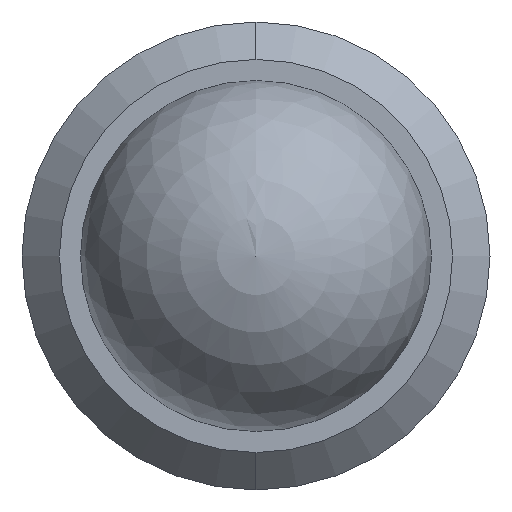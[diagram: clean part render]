
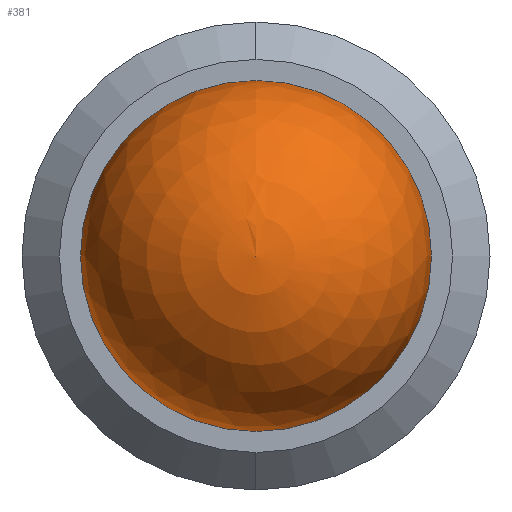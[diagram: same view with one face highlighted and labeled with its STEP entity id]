
A CAD part, left-side view. The second image highlights one B-rep face of the part: STEP entity #381.
In plain terms, the highlighted spherical face has radius 2.381 mm.
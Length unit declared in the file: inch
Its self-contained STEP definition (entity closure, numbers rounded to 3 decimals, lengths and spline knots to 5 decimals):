
#3 = EDGE_CURVE ( 'NONE', #295, #557, #161, .T. ) ;
#10 = CARTESIAN_POINT ( 'NONE',  ( 0., 0., 0. ) ) ;
#17 = EDGE_CURVE ( 'NONE', #295, #557, #165, .T. ) ;
#45 = CARTESIAN_POINT ( 'NONE',  ( 0., -0.09375, 0. ) ) ;
#119 = DIRECTION ( 'NONE',  ( -1., 0., 0. ) ) ;
#161 = CIRCLE ( 'NONE', #365, 0.09375 ) ;
#165 = CIRCLE ( 'NONE', #308, 0.09375 ) ;
#193 = CARTESIAN_POINT ( 'NONE',  ( 0., 0.09375, 0. ) ) ;
#205 = ORIENTED_EDGE ( 'NONE', *, *, #3, .T. ) ;
#284 = FACE_OUTER_BOUND ( 'NONE', #518, .T. ) ;
#292 = SPHERICAL_SURFACE ( 'NONE', #600, 0.09375 ) ;
#295 = VERTEX_POINT ( 'NONE', #193 ) ;
#308 = AXIS2_PLACEMENT_3D ( 'NONE', #10, #453, #475 ) ;
#319 = ORIENTED_EDGE ( 'NONE', *, *, #17, .F. ) ;
#365 = AXIS2_PLACEMENT_3D ( 'NONE', #597, #406, #455 ) ;
#381 = ADVANCED_FACE ( 'NONE', ( #284 ), #292, .T. ) ;
#406 = DIRECTION ( 'NONE',  ( -1., 0., 0. ) ) ;
#453 = DIRECTION ( 'NONE',  ( 1., 0., 0. ) ) ;
#455 = DIRECTION ( 'NONE',  ( 0., 0., 1. ) ) ;
#475 = DIRECTION ( 'NONE',  ( 0., 0., -1. ) ) ;
#511 = CARTESIAN_POINT ( 'NONE',  ( 0., 0., 0. ) ) ;
#518 = EDGE_LOOP ( 'NONE', ( #319, #205 ) ) ;
#557 = VERTEX_POINT ( 'NONE', #45 ) ;
#563 = DIRECTION ( 'NONE',  ( 0., 0., 1. ) ) ;
#597 = CARTESIAN_POINT ( 'NONE',  ( 0., 0., 0. ) ) ;
#600 = AXIS2_PLACEMENT_3D ( 'NONE', #511, #119, #563 ) ;
